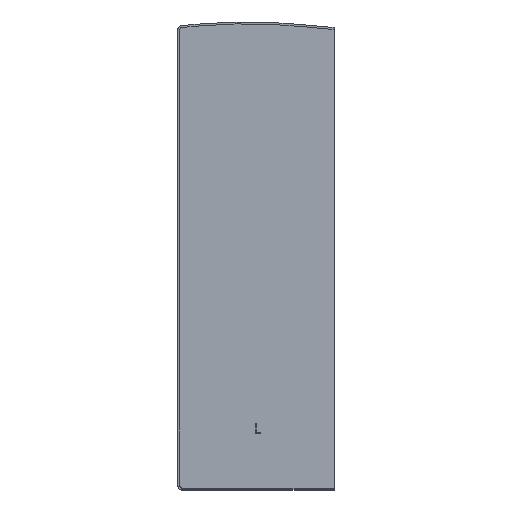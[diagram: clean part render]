
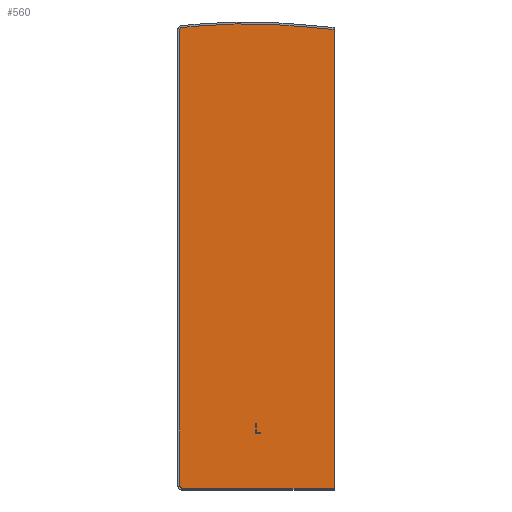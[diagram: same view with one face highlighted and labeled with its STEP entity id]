
A CAD part, top view. The second image highlights one B-rep face of the part: STEP entity #560.
In plain terms, the highlighted planar face has unit normal (0, 0, 1).
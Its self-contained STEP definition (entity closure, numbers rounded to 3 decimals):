
#14=FACE_BOUND('',#84,.T.);
#27=CIRCLE('',#616,467.5);
#28=CIRCLE('',#618,278.756);
#33=CIRCLE('',#625,1.);
#34=CIRCLE('',#626,1.);
#52=FACE_OUTER_BOUND('',#83,.T.);
#83=EDGE_LOOP('',(#426,#427,#428,#429,#430,#431,#432,#433,#434));
#84=EDGE_LOOP('',(#435,#436,#437,#438,#439,#440));
#108=LINE('',#825,#172);
#111=LINE('',#830,#175);
#113=LINE('',#834,#177);
#115=LINE('',#838,#179);
#117=LINE('',#842,#181);
#119=LINE('',#845,#183);
#138=LINE('',#905,#202);
#139=LINE('',#907,#203);
#140=LINE('',#911,#204);
#141=LINE('',#915,#205);
#142=LINE('',#916,#206);
#172=VECTOR('',#660,10.);
#175=VECTOR('',#665,10.);
#177=VECTOR('',#669,10.);
#179=VECTOR('',#673,10.);
#181=VECTOR('',#677,10.);
#183=VECTOR('',#681,10.);
#202=VECTOR('',#734,10.);
#203=VECTOR('',#735,10.);
#204=VECTOR('',#738,10.);
#205=VECTOR('',#741,10.);
#206=VECTOR('',#742,10.);
#236=VERTEX_POINT('',#823);
#237=VERTEX_POINT('',#824);
#238=VERTEX_POINT('',#829);
#239=VERTEX_POINT('',#833);
#240=VERTEX_POINT('',#837);
#241=VERTEX_POINT('',#841);
#252=VERTEX_POINT('',#872);
#253=VERTEX_POINT('',#874);
#254=VERTEX_POINT('',#878);
#265=VERTEX_POINT('',#904);
#266=VERTEX_POINT('',#906);
#267=VERTEX_POINT('',#908);
#268=VERTEX_POINT('',#910);
#269=VERTEX_POINT('',#912);
#270=VERTEX_POINT('',#914);
#288=EDGE_CURVE('',#236,#237,#108,.T.);
#291=EDGE_CURVE('',#237,#238,#111,.T.);
#293=EDGE_CURVE('',#238,#239,#113,.T.);
#295=EDGE_CURVE('',#239,#240,#115,.T.);
#297=EDGE_CURVE('',#240,#241,#117,.T.);
#299=EDGE_CURVE('',#241,#236,#119,.T.);
#313=EDGE_CURVE('',#253,#252,#27,.T.);
#316=EDGE_CURVE('',#252,#254,#28,.T.);
#328=EDGE_CURVE('',#265,#253,#138,.T.);
#329=EDGE_CURVE('',#254,#266,#139,.T.);
#330=EDGE_CURVE('',#266,#267,#33,.T.);
#331=EDGE_CURVE('',#267,#268,#140,.T.);
#332=EDGE_CURVE('',#268,#269,#34,.T.);
#333=EDGE_CURVE('',#269,#270,#141,.T.);
#334=EDGE_CURVE('',#265,#270,#142,.T.);
#426=ORIENTED_EDGE('',*,*,#328,.T.);
#427=ORIENTED_EDGE('',*,*,#313,.T.);
#428=ORIENTED_EDGE('',*,*,#316,.T.);
#429=ORIENTED_EDGE('',*,*,#329,.T.);
#430=ORIENTED_EDGE('',*,*,#330,.T.);
#431=ORIENTED_EDGE('',*,*,#331,.T.);
#432=ORIENTED_EDGE('',*,*,#332,.T.);
#433=ORIENTED_EDGE('',*,*,#333,.T.);
#434=ORIENTED_EDGE('',*,*,#334,.F.);
#435=ORIENTED_EDGE('',*,*,#288,.T.);
#436=ORIENTED_EDGE('',*,*,#291,.T.);
#437=ORIENTED_EDGE('',*,*,#293,.T.);
#438=ORIENTED_EDGE('',*,*,#295,.T.);
#439=ORIENTED_EDGE('',*,*,#297,.T.);
#440=ORIENTED_EDGE('',*,*,#299,.T.);
#533=PLANE('',#624);
#560=ADVANCED_FACE('',(#52,#14),#533,.F.);
#616=AXIS2_PLACEMENT_3D('',#875,#707,#708);
#618=AXIS2_PLACEMENT_3D('',#880,#713,#714);
#624=AXIS2_PLACEMENT_3D('',#903,#732,#733);
#625=AXIS2_PLACEMENT_3D('',#909,#736,#737);
#626=AXIS2_PLACEMENT_3D('',#913,#739,#740);
#660=DIRECTION('',(0.,-1.,0.));
#665=DIRECTION('',(-1.,0.,0.));
#669=DIRECTION('',(0.,1.,0.));
#673=DIRECTION('',(1.,0.,0.));
#677=DIRECTION('',(0.,-1.,0.));
#681=DIRECTION('',(1.,0.,0.));
#707=DIRECTION('center_axis',(0.,0.,-1.));
#708=DIRECTION('ref_axis',(0.104,0.995,0.));
#713=DIRECTION('center_axis',(0.,0.,1.));
#714=DIRECTION('ref_axis',(0.104,0.995,0.));
#732=DIRECTION('center_axis',(0.,0.,-1.));
#733=DIRECTION('ref_axis',(-1.,0.,0.));
#734=DIRECTION('',(-0.996,0.087,0.));
#735=DIRECTION('',(-0.996,-0.087,0.));
#736=DIRECTION('center_axis',(0.,0.,1.));
#737=DIRECTION('ref_axis',(-0.087,0.996,0.));
#738=DIRECTION('',(0.,-1.,0.));
#739=DIRECTION('center_axis',(0.,0.,1.));
#740=DIRECTION('ref_axis',(-1.,0.,0.));
#741=DIRECTION('',(1.,0.,0.));
#742=DIRECTION('',(0.,-1.,0.));
#823=CARTESIAN_POINT('',(2.404,29.592,0.));
#824=CARTESIAN_POINT('',(2.404,29.,0.));
#825=CARTESIAN_POINT('',(2.404,74.772,0.));
#829=CARTESIAN_POINT('',(-0.494,29.,0.));
#830=CARTESIAN_POINT('',(1.202,29.,0.));
#833=CARTESIAN_POINT('',(-0.494,34.,0.));
#834=CARTESIAN_POINT('',(-0.494,74.476,0.));
#837=CARTESIAN_POINT('',(0.171,34.,0.));
#838=CARTESIAN_POINT('',(-0.247,34.,0.));
#841=CARTESIAN_POINT('',(0.171,29.592,0.));
#842=CARTESIAN_POINT('',(0.171,76.976,0.));
#845=CARTESIAN_POINT('',(0.085,29.592,0.));
#872=CARTESIAN_POINT('',(24.726,237.398,0.));
#874=CARTESIAN_POINT('',(32.5,236.652,0.));
#875=CARTESIAN_POINT('Origin',(73.245,702.373,0.));
#878=CARTESIAN_POINT('',(-28.5,237.843,0.));
#880=CARTESIAN_POINT('Origin',(-4.205,-39.853,0.));
#903=CARTESIAN_POINT('Origin',(0.,119.952,0.));
#904=CARTESIAN_POINT('',(40.,235.996,0.));
#905=CARTESIAN_POINT('',(40.,235.996,0.));
#906=CARTESIAN_POINT('',(-38.087,237.004,0.));
#907=CARTESIAN_POINT('',(-28.5,237.843,0.));
#908=CARTESIAN_POINT('',(-39.,236.008,0.));
#909=CARTESIAN_POINT('Origin',(-38.,236.008,0.));
#910=CARTESIAN_POINT('',(-39.,2.,0.));
#911=CARTESIAN_POINT('',(-39.,236.008,0.));
#912=CARTESIAN_POINT('',(-38.,1.,0.));
#913=CARTESIAN_POINT('Origin',(-38.,2.,0.));
#914=CARTESIAN_POINT('',(40.,1.,0.));
#915=CARTESIAN_POINT('',(-38.,1.,0.));
#916=CARTESIAN_POINT('',(40.,237.,0.));
